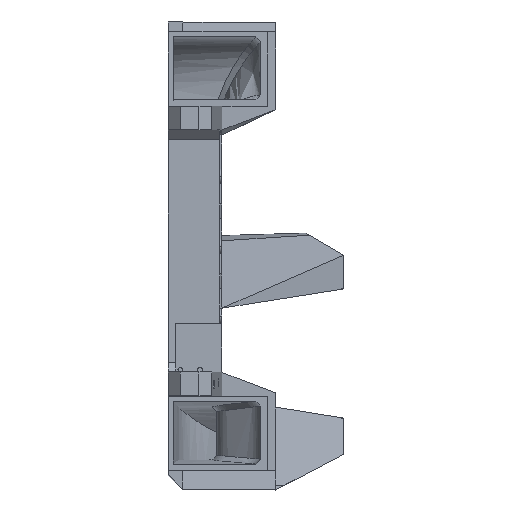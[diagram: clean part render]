
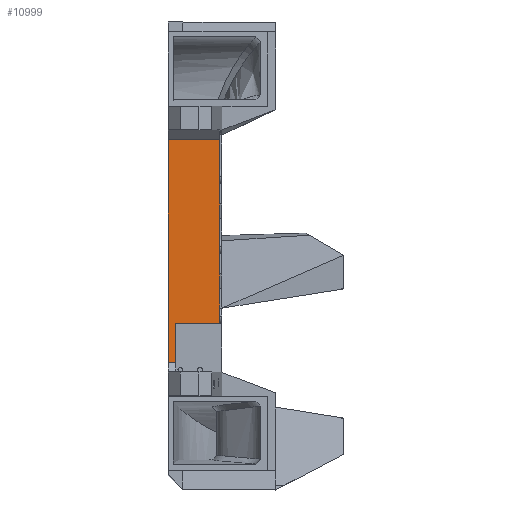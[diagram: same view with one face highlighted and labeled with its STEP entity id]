
A CAD part, top view. The second image highlights one B-rep face of the part: STEP entity #10999.
In plain terms, the highlighted planar face has unit normal (0, 0, 1).
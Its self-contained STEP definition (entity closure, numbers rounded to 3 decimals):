
#613=LINE('',#16805,#1731);
#823=LINE('',#18288,#1941);
#824=LINE('',#18290,#1942);
#825=LINE('',#18292,#1943);
#826=LINE('',#18294,#1944);
#827=LINE('',#18296,#1945);
#828=LINE('',#18298,#1946);
#829=LINE('',#18300,#1947);
#830=LINE('',#18302,#1948);
#831=LINE('',#18304,#1949);
#1731=VECTOR('',#13685,1000.);
#1941=VECTOR('',#14079,1000.);
#1942=VECTOR('',#14080,1000.);
#1943=VECTOR('',#14081,1000.);
#1944=VECTOR('',#14082,1000.);
#1945=VECTOR('',#14083,1000.);
#1946=VECTOR('',#14084,1000.);
#1947=VECTOR('',#14085,1000.);
#1948=VECTOR('',#14086,1000.);
#1949=VECTOR('',#14087,1000.);
#3413=ORIENTED_EDGE('',*,*,#6277,.F.);
#3414=ORIENTED_EDGE('',*,*,#6681,.T.);
#3415=ORIENTED_EDGE('',*,*,#6682,.T.);
#3416=ORIENTED_EDGE('',*,*,#6683,.T.);
#3417=ORIENTED_EDGE('',*,*,#6684,.T.);
#3418=ORIENTED_EDGE('',*,*,#6685,.T.);
#3419=ORIENTED_EDGE('',*,*,#6686,.T.);
#3420=ORIENTED_EDGE('',*,*,#6687,.T.);
#3421=ORIENTED_EDGE('',*,*,#6688,.T.);
#3422=ORIENTED_EDGE('',*,*,#6689,.T.);
#6277=EDGE_CURVE('',#7924,#7925,#613,.T.);
#6681=EDGE_CURVE('',#7924,#8305,#823,.T.);
#6682=EDGE_CURVE('',#8305,#8306,#824,.T.);
#6683=EDGE_CURVE('',#8306,#8307,#825,.T.);
#6684=EDGE_CURVE('',#8307,#8308,#826,.T.);
#6685=EDGE_CURVE('',#8308,#8309,#827,.T.);
#6686=EDGE_CURVE('',#8309,#8310,#828,.T.);
#6687=EDGE_CURVE('',#8310,#8311,#829,.T.);
#6688=EDGE_CURVE('',#8311,#8312,#830,.T.);
#6689=EDGE_CURVE('',#8312,#7925,#831,.T.);
#7924=VERTEX_POINT('',#16804);
#7925=VERTEX_POINT('',#16806);
#8305=VERTEX_POINT('',#18289);
#8306=VERTEX_POINT('',#18291);
#8307=VERTEX_POINT('',#18293);
#8308=VERTEX_POINT('',#18295);
#8309=VERTEX_POINT('',#18297);
#8310=VERTEX_POINT('',#18299);
#8311=VERTEX_POINT('',#18301);
#8312=VERTEX_POINT('',#18303);
#9250=EDGE_LOOP('',(#3413,#3414,#3415,#3416,#3417,#3418,#3419,#3420,#3421,
#3422));
#9921=FACE_BOUND('',#9250,.T.);
#10550=PLANE('',#13018);
#10999=ADVANCED_FACE('',(#9921),#10550,.T.);
#13018=AXIS2_PLACEMENT_3D('',#18287,#14077,#14078);
#13685=DIRECTION('',(0.,1.,0.));
#14077=DIRECTION('',(0.,0.,1.));
#14078=DIRECTION('',(1.,0.,0.));
#14079=DIRECTION('',(1.,0.,0.));
#14080=DIRECTION('',(0.,1.,0.));
#14081=DIRECTION('',(1.,0.,0.));
#14082=DIRECTION('',(0.,1.,0.));
#14083=DIRECTION('',(0.,1.,0.));
#14084=DIRECTION('',(0.,1.,0.));
#14085=DIRECTION('',(0.,1.,0.));
#14086=DIRECTION('',(0.,1.,0.));
#14087=DIRECTION('',(-1.,0.,0.));
#16804=CARTESIAN_POINT('',(-31.,-24.,50.496));
#16805=CARTESIAN_POINT('',(-31.,-26.,50.496));
#16806=CARTESIAN_POINT('',(-31.,21.7,50.496));
#18287=CARTESIAN_POINT('',(-29.5,-26.,50.496));
#18288=CARTESIAN_POINT('',(-29.5,-24.,50.496));
#18289=CARTESIAN_POINT('',(-29.5,-24.,50.496));
#18290=CARTESIAN_POINT('',(-29.5,-26.,50.496));
#18291=CARTESIAN_POINT('',(-29.5,-16.,50.496));
#18292=CARTESIAN_POINT('',(-29.5,-16.,50.496));
#18293=CARTESIAN_POINT('',(-20.472,-16.,50.496));
#18294=CARTESIAN_POINT('',(-20.472,-25.,50.496));
#18295=CARTESIAN_POINT('',(-20.472,-8.825,50.496));
#18296=CARTESIAN_POINT('',(-20.472,-163.24,50.496));
#18297=CARTESIAN_POINT('',(-20.472,-5.825,50.496));
#18298=CARTESIAN_POINT('',(-20.472,-25.,50.496));
#18299=CARTESIAN_POINT('',(-20.472,5.525,50.496));
#18300=CARTESIAN_POINT('',(-20.472,-163.24,50.496));
#18301=CARTESIAN_POINT('',(-20.472,8.525,50.496));
#18302=CARTESIAN_POINT('',(-20.472,-26.,50.496));
#18303=CARTESIAN_POINT('',(-20.472,21.7,50.496));
#18304=CARTESIAN_POINT('',(-31.,21.7,50.496));
